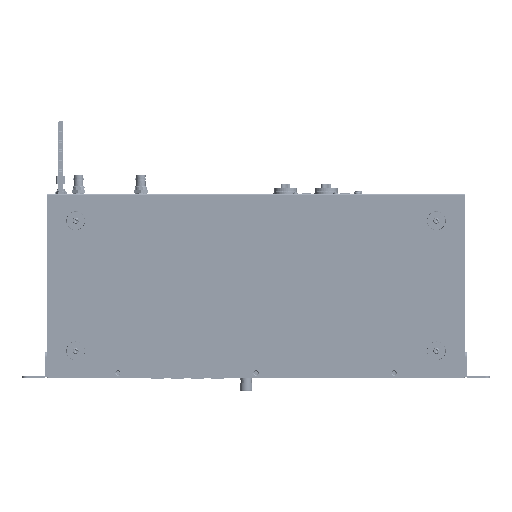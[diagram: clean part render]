
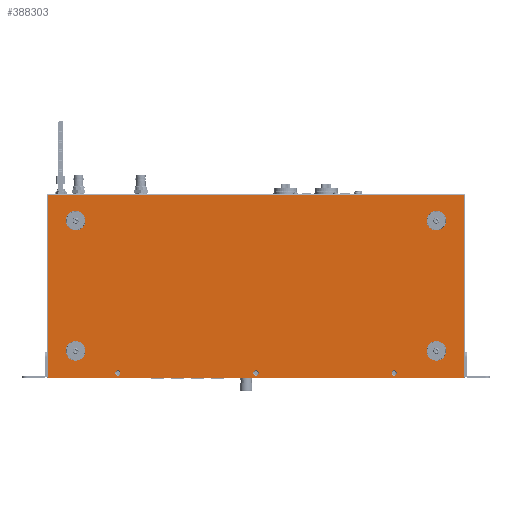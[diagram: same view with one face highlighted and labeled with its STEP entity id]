
A CAD part, front view. The second image highlights one B-rep face of the part: STEP entity #388303.
In plain terms, the highlighted planar face has unit normal (0, -1, 0).
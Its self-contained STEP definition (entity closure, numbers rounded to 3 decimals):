
#378387=DIRECTION('',(0.,0.,-1.));
#378388=VECTOR('',#378387,0.483);
#378389=CARTESIAN_POINT('',(-214.,-7.8,-126.467));
#378390=LINE('',#378389,#378388);
#380093=CARTESIAN_POINT('',(-142.5,-7.8,56.85));
#380094=DIRECTION('',(0.,1.,0.));
#380095=DIRECTION('',(1.,0.,0.));
#380096=AXIS2_PLACEMENT_3D('',#380093,#380094,#380095);
#380101=CARTESIAN_POINT('',(-142.5,-7.8,56.85));
#380102=DIRECTION('',(0.,1.,0.));
#380103=DIRECTION('',(-1.,0.,0.));
#380104=AXIS2_PLACEMENT_3D('',#380101,#380102,#380103);
#380109=CARTESIAN_POINT('',(0.,-7.8,56.85));
#380110=DIRECTION('',(0.,1.,0.));
#380111=DIRECTION('',(1.,0.,0.));
#380112=AXIS2_PLACEMENT_3D('',#380109,#380110,#380111);
#380117=CARTESIAN_POINT('',(0.,-7.8,56.85));
#380118=DIRECTION('',(0.,1.,0.));
#380119=DIRECTION('',(-1.,0.,0.));
#380120=AXIS2_PLACEMENT_3D('',#380117,#380118,#380119);
#380125=CARTESIAN_POINT('',(142.5,-7.8,56.85));
#380126=DIRECTION('',(0.,1.,0.));
#380127=DIRECTION('',(1.,0.,0.));
#380128=AXIS2_PLACEMENT_3D('',#380125,#380126,#380127);
#380133=CARTESIAN_POINT('',(142.5,-7.8,56.85));
#380134=DIRECTION('',(0.,1.,0.));
#380135=DIRECTION('',(-1.,0.,0.));
#380136=AXIS2_PLACEMENT_3D('',#380133,#380134,#380135);
#380277=CARTESIAN_POINT('',(-186.,-7.8,34.));
#380278=DIRECTION('',(0.,-1.,0.));
#380279=DIRECTION('',(1.,0.,0.));
#380280=AXIS2_PLACEMENT_3D('',#380277,#380278,#380279);
#380285=CARTESIAN_POINT('',(-186.,-7.8,34.));
#380286=DIRECTION('',(0.,-1.,0.));
#380287=DIRECTION('',(-1.,0.,0.));
#380288=AXIS2_PLACEMENT_3D('',#380285,#380286,#380287);
#380309=CARTESIAN_POINT('',(-186.,-7.8,-100.3));
#380310=DIRECTION('',(0.,-1.,0.));
#380311=DIRECTION('',(1.,0.,0.));
#380312=AXIS2_PLACEMENT_3D('',#380309,#380310,#380311);
#380317=CARTESIAN_POINT('',(-186.,-7.8,-100.3));
#380318=DIRECTION('',(0.,-1.,0.));
#380319=DIRECTION('',(-1.,0.,0.));
#380320=AXIS2_PLACEMENT_3D('',#380317,#380318,#380319);
#380341=CARTESIAN_POINT('',(186.,-7.8,34.));
#380342=DIRECTION('',(0.,-1.,0.));
#380343=DIRECTION('',(1.,0.,0.));
#380344=AXIS2_PLACEMENT_3D('',#380341,#380342,#380343);
#380349=CARTESIAN_POINT('',(186.,-7.8,34.));
#380350=DIRECTION('',(0.,-1.,0.));
#380351=DIRECTION('',(-1.,0.,0.));
#380352=AXIS2_PLACEMENT_3D('',#380349,#380350,#380351);
#380373=CARTESIAN_POINT('',(186.,-7.8,-100.3));
#380374=DIRECTION('',(0.,-1.,0.));
#380375=DIRECTION('',(1.,0.,0.));
#380376=AXIS2_PLACEMENT_3D('',#380373,#380374,#380375);
#380381=CARTESIAN_POINT('',(186.,-7.8,-100.3));
#380382=DIRECTION('',(0.,-1.,0.));
#380383=DIRECTION('',(-1.,0.,0.));
#380384=AXIS2_PLACEMENT_3D('',#380381,#380382,#380383);
#380389=DIRECTION('',(0.,0.,1.));
#380390=VECTOR('',#380389,0.483);
#380391=CARTESIAN_POINT('',(214.,-7.8,-126.95));
#380392=LINE('',#380391,#380390);
#380396=DIRECTION('',(-1.,0.,0.));
#380397=VECTOR('',#380396,428.);
#380398=CARTESIAN_POINT('',(214.,-7.8,-126.95));
#380399=LINE('',#380398,#380397);
#380403=DIRECTION('',(1.,0.,0.));
#380404=VECTOR('',#380403,0.2);
#380405=CARTESIAN_POINT('',(-214.2,-7.8,-126.467));
#380406=LINE('',#380405,#380404);
#380410=DIRECTION('',(0.,0.,1.));
#380411=VECTOR('',#380410,187.917);
#380412=CARTESIAN_POINT('',(-214.2,-7.8,-126.467));
#380413=LINE('',#380412,#380411);
#380417=DIRECTION('',(1.,0.,0.));
#380418=VECTOR('',#380417,428.4);
#380419=CARTESIAN_POINT('',(-214.2,-7.8,61.45));
#380420=LINE('',#380419,#380418);
#380424=DIRECTION('',(0.,0.,-1.));
#380425=VECTOR('',#380424,187.917);
#380426=CARTESIAN_POINT('',(214.2,-7.8,61.45));
#380427=LINE('',#380426,#380425);
#380431=DIRECTION('',(-1.,0.,0.));
#380432=VECTOR('',#380431,0.2);
#380433=CARTESIAN_POINT('',(214.2,-7.8,-126.467));
#380434=LINE('',#380433,#380432);
#381850=CARTESIAN_POINT('',(-214.,-7.8,-126.467));
#381851=VERTEX_POINT('',#381850);
#381863=CARTESIAN_POINT('',(-214.,-7.8,-126.95));
#381865=VERTEX_POINT('',#381863);
#381866=CARTESIAN_POINT('',(-214.2,-7.8,-126.467));
#381867=CARTESIAN_POINT('',(-214.2,-7.8,61.45));
#381868=VERTEX_POINT('',#381866);
#381869=VERTEX_POINT('',#381867);
#381888=CARTESIAN_POINT('',(214.2,-7.8,61.45));
#381889=VERTEX_POINT('',#381888);
#382184=CARTESIAN_POINT('',(-139.7,-7.8,56.85));
#382185=CARTESIAN_POINT('',(-145.3,-7.8,56.85));
#382186=VERTEX_POINT('',#382184);
#382187=VERTEX_POINT('',#382185);
#382192=CARTESIAN_POINT('',(2.8,-7.8,56.85));
#382193=CARTESIAN_POINT('',(-2.8,-7.8,56.85));
#382194=VERTEX_POINT('',#382192);
#382195=VERTEX_POINT('',#382193);
#382200=CARTESIAN_POINT('',(145.3,-7.8,56.85));
#382201=CARTESIAN_POINT('',(139.7,-7.8,56.85));
#382202=VERTEX_POINT('',#382200);
#382203=VERTEX_POINT('',#382201);
#383108=CARTESIAN_POINT('',(-175.9,-7.8,34.));
#383109=CARTESIAN_POINT('',(-196.1,-7.8,34.));
#383110=VERTEX_POINT('',#383108);
#383111=VERTEX_POINT('',#383109);
#383116=CARTESIAN_POINT('',(-175.9,-7.8,-100.3));
#383117=CARTESIAN_POINT('',(-196.1,-7.8,-100.3));
#383118=VERTEX_POINT('',#383116);
#383119=VERTEX_POINT('',#383117);
#383124=CARTESIAN_POINT('',(196.1,-7.8,34.));
#383125=CARTESIAN_POINT('',(175.9,-7.8,34.));
#383126=VERTEX_POINT('',#383124);
#383127=VERTEX_POINT('',#383125);
#383132=CARTESIAN_POINT('',(196.1,-7.8,-100.3));
#383133=CARTESIAN_POINT('',(175.9,-7.8,-100.3));
#383134=VERTEX_POINT('',#383132);
#383135=VERTEX_POINT('',#383133);
#383160=CARTESIAN_POINT('',(214.,-7.8,-126.95));
#383161=CARTESIAN_POINT('',(214.,-7.8,-126.467));
#383162=VERTEX_POINT('',#383160);
#383163=VERTEX_POINT('',#383161);
#383164=CARTESIAN_POINT('',(214.2,-7.8,-126.467));
#383165=VERTEX_POINT('',#383164);
#388242=CARTESIAN_POINT('',(-215.,-7.8,61.45));
#388243=DIRECTION('',(0.,-1.,0.));
#388244=DIRECTION('',(0.,0.,-1.));
#388245=AXIS2_PLACEMENT_3D('',#388242,#388243,#388244);
#388246=PLANE('',#388245);
#388247=ORIENTED_EDGE('',*,*,#386612,.F.);
#388248=ORIENTED_EDGE('',*,*,#386630,.T.);
#388249=ORIENTED_EDGE('',*,*,#386667,.F.);
#388251=ORIENTED_EDGE('',*,*,#388250,.F.);
#388253=ORIENTED_EDGE('',*,*,#388252,.T.);
#388255=ORIENTED_EDGE('',*,*,#388254,.T.);
#388257=ORIENTED_EDGE('',*,*,#388256,.T.);
#388259=ORIENTED_EDGE('',*,*,#388258,.T.);
#388260=EDGE_LOOP('',(#388247,#388248,#388249,#388251,#388253,#388255,#388257,
#388259));
#388261=FACE_OUTER_BOUND('',#388260,.F.);
#388262=ORIENTED_EDGE('',*,*,#388160,.F.);
#388264=ORIENTED_EDGE('',*,*,#388263,.F.);
#388265=EDGE_LOOP('',(#388262,#388264));
#388266=FACE_BOUND('',#388265,.F.);
#388268=ORIENTED_EDGE('',*,*,#388267,.F.);
#388270=ORIENTED_EDGE('',*,*,#388269,.F.);
#388271=EDGE_LOOP('',(#388268,#388270));
#388272=FACE_BOUND('',#388271,.F.);
#388274=ORIENTED_EDGE('',*,*,#388273,.F.);
#388276=ORIENTED_EDGE('',*,*,#388275,.F.);
#388277=EDGE_LOOP('',(#388274,#388276));
#388278=FACE_BOUND('',#388277,.F.);
#388280=ORIENTED_EDGE('',*,*,#388279,.T.);
#388282=ORIENTED_EDGE('',*,*,#388281,.T.);
#388283=EDGE_LOOP('',(#388280,#388282));
#388284=FACE_BOUND('',#388283,.F.);
#388286=ORIENTED_EDGE('',*,*,#388285,.T.);
#388288=ORIENTED_EDGE('',*,*,#388287,.T.);
#388289=EDGE_LOOP('',(#388286,#388288));
#388290=FACE_BOUND('',#388289,.F.);
#388292=ORIENTED_EDGE('',*,*,#388291,.T.);
#388294=ORIENTED_EDGE('',*,*,#388293,.T.);
#388295=EDGE_LOOP('',(#388292,#388294));
#388296=FACE_BOUND('',#388295,.F.);
#388298=ORIENTED_EDGE('',*,*,#388297,.T.);
#388300=ORIENTED_EDGE('',*,*,#388299,.T.);
#388301=EDGE_LOOP('',(#388298,#388300));
#388302=FACE_BOUND('',#388301,.F.);
#388303=ADVANCED_FACE('',(#388261,#388266,#388272,#388278,#388284,#388290,
#388296,#388302),#388246,.T.);
#380097=CIRCLE('',#380096,2.8);
#380105=CIRCLE('',#380104,2.8);
#380113=CIRCLE('',#380112,2.8);
#380121=CIRCLE('',#380120,2.8);
#380129=CIRCLE('',#380128,2.8);
#380137=CIRCLE('',#380136,2.8);
#380281=CIRCLE('',#380280,10.1);
#380289=CIRCLE('',#380288,10.1);
#380313=CIRCLE('',#380312,10.1);
#380321=CIRCLE('',#380320,10.1);
#380345=CIRCLE('',#380344,10.1);
#380353=CIRCLE('',#380352,10.1);
#380377=CIRCLE('',#380376,10.1);
#380385=CIRCLE('',#380384,10.1);
#386612=EDGE_CURVE('',#383162,#383163,#380392,.T.);
#386630=EDGE_CURVE('',#383162,#381865,#380399,.T.);
#386667=EDGE_CURVE('',#381851,#381865,#378390,.T.);
#388160=EDGE_CURVE('',#382186,#382187,#380097,.T.);
#388250=EDGE_CURVE('',#381868,#381851,#380406,.T.);
#388252=EDGE_CURVE('',#381868,#381869,#380413,.T.);
#388254=EDGE_CURVE('',#381869,#381889,#380420,.T.);
#388256=EDGE_CURVE('',#381889,#383165,#380427,.T.);
#388258=EDGE_CURVE('',#383165,#383163,#380434,.T.);
#388263=EDGE_CURVE('',#382187,#382186,#380105,.T.);
#388267=EDGE_CURVE('',#382194,#382195,#380113,.T.);
#388269=EDGE_CURVE('',#382195,#382194,#380121,.T.);
#388273=EDGE_CURVE('',#382202,#382203,#380129,.T.);
#388275=EDGE_CURVE('',#382203,#382202,#380137,.T.);
#388279=EDGE_CURVE('',#383110,#383111,#380281,.T.);
#388281=EDGE_CURVE('',#383111,#383110,#380289,.T.);
#388285=EDGE_CURVE('',#383118,#383119,#380313,.T.);
#388287=EDGE_CURVE('',#383119,#383118,#380321,.T.);
#388291=EDGE_CURVE('',#383126,#383127,#380345,.T.);
#388293=EDGE_CURVE('',#383127,#383126,#380353,.T.);
#388297=EDGE_CURVE('',#383134,#383135,#380377,.T.);
#388299=EDGE_CURVE('',#383135,#383134,#380385,.T.);
